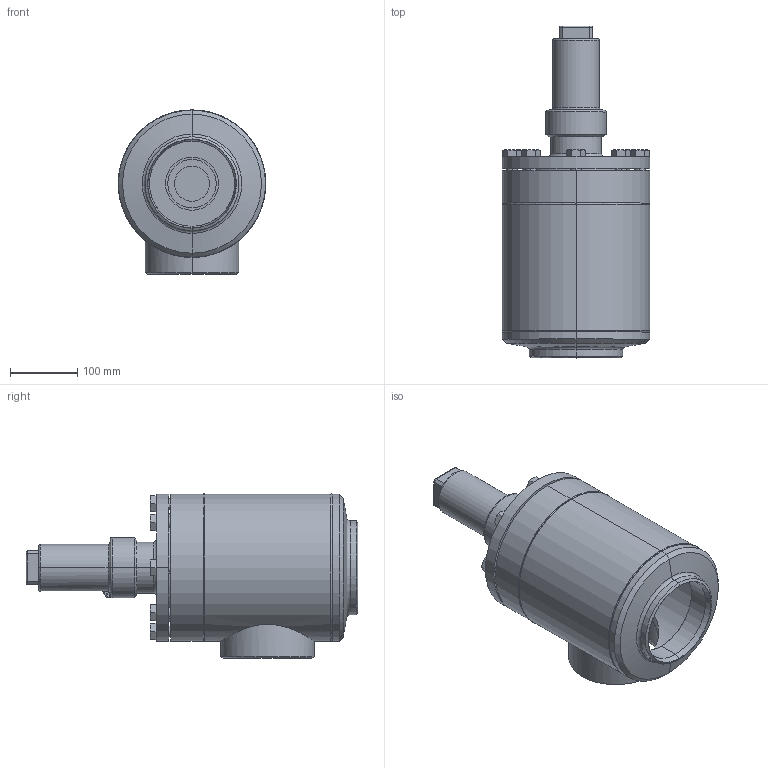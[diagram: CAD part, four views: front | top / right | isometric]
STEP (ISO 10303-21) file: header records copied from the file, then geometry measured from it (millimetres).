
FILE_DESCRIPTION (( 'STEP AP214' ), '1' );
FILE_NAME ('HRAR22400D20A5A3AA00_DN125_R1_PS40.STEP', '2010-06-16T11:17:55', ( 'Eckhard Grams' ), ( 'AWP Kälte Klima Armaturen GmbH' ), 'SwSTEP 2.0', 'SolidWorks 2002296', '' );
FILE_SCHEMA (( 'AUTOMOTIVE_DESIGN' ));
Length unit declared in the file: millimetre
Products named in the file (12): HRAR22400D20A5A3AA00_DN125_R1_PS40; AVB16300E20_Deck+Schr-DN125_Standard; Deckel16300E20-DN125_Standard; Sechskantschraube-DIN933_M16x 45; Geh,kpl 16300E20-5030AA1_DN125_R1_Standard; Gehäuse16300-DN125_Standard; Boden16300-DN125_Standard; Rohrstutzen-A16300a-20_R1_Standard; bead Geh,kpl 16400-20-2_Standard; bead Geh,kpl 16400-20-1_Standard; Kopfstück16300-DN125_Standard; Kappe 16402-21_DN125-150 (M76x3)_Standard
Assembly tree (18 placements, depth 3):
  HRAR22400D20A5A3AA00_DN125_R1_PS40
    AVB16300E20_Deck+Schr-DN125_Standard
      Sechskantschraube-DIN933_M16x 45  x8
      Deckel16300E20-DN125_Standard
    Geh,kpl 16300E20-5030AA1_DN125_R1_Standard
      Boden16300-DN125_Standard
      Rohrstutzen-A16300a-20_R1_Standard
      bead Geh,kpl 16400-20-2_Standard
      Kopfstück16300-DN125_Standard
      bead Geh,kpl 16400-20-1_Standard
      Gehäuse16300-DN125_Standard
    Kappe 16402-21_DN125-150 (M76x3)_Standard
Bounding box: 219.55 x 494 x 244.27 mm (x, y, z)
Volume: 5192334.3 mm3; surface area: 804673.9 mm2
Topology: 16 solids, 16 shells, 386 faces, 829 edges, 493 vertices
Faces by surface type: cone 130, plane 115, cylinder 104, bspline 19, torus 18
Entity records: 12788 total; most frequent: CARTESIAN_POINT 7322, DIRECTION 1031, ORIENTED_EDGE 930, EDGE_CURVE 465, AXIS2_PLACEMENT_3D 447, VERTEX_POINT 283, EDGE_LOOP 256, CIRCLE 232
